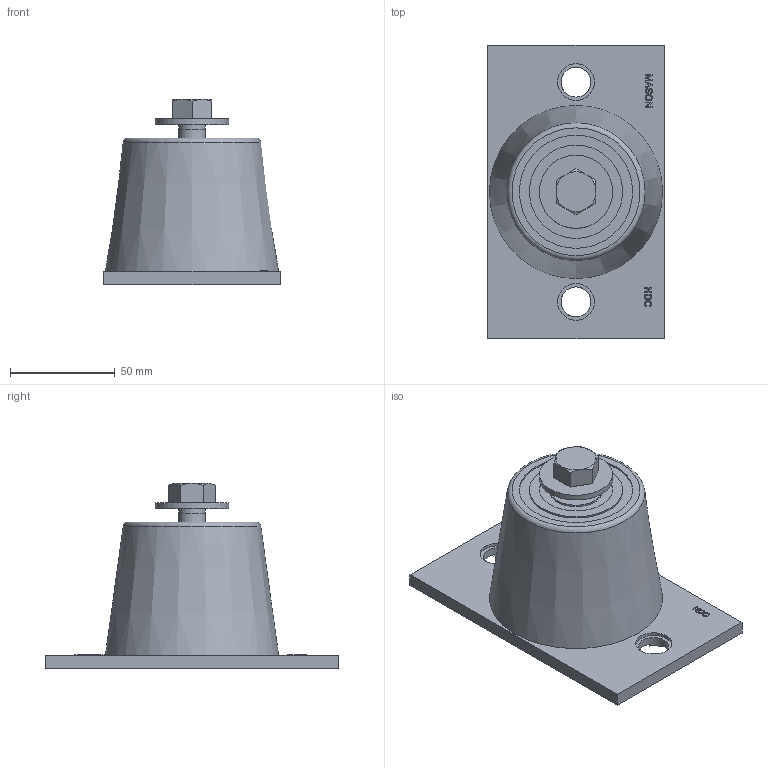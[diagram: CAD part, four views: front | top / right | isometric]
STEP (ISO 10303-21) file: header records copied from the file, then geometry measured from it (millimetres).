
FILE_DESCRIPTION((''),'2;1');
FILE_NAME('C:\2012_Work\Designs\ND\ND-C\A-1012-2 NDC MOUNT-BLACK.stp','2013-09-11T09:47:01',('KShiels'),(''),'Autodesk Inventor 2012','Autodesk Inventor 2012','');
FILE_SCHEMA(('AUTOMOTIVE_DESIGN { 1 0 10303 214 1 1 1 1 }'));
Length unit declared in the file: inch
Products named in the file (6): A-1012-2 NDC MOUNT-BLACK; A-1012-2 NDC RUBBER-BLACK; A-1014-3 NDC TOP PLATE; ANSI B18.22.1 - 1_2 - wide - Type A_NDC; ANSI_ASME B18.2.1 - 1_2-13 UNC - 1(2)_NDC; A-1013-4 NDC BASE PLATE
Assembly tree (5 placements, depth 2):
  A-1012-2 NDC MOUNT-BLACK
    A-1012-2 NDC RUBBER-BLACK
    A-1014-3 NDC TOP PLATE
    ANSI B18.22.1 - 1_2 - wide - Type A_NDC
    ANSI_ASME B18.2.1 - 1_2-13 UNC - 1(2)_NDC
    A-1013-4 NDC BASE PLATE
Bounding box: 84.14 x 139.7 x 88.21 mm (x, y, z)
Volume: 322552.3 mm3; surface area: 77967.5 mm2
Topology: 5 solids, 5 shells, 360 faces, 924 edges, 612 vertices
Faces by surface type: plane 274, bspline 54, cylinder 20, cone 10, torus 2
Full cylindrical faces by diameter (mm): 10.592 x1, 12.7 x1, 14.275 x1, 14.288 x2, 15.478 x2, 15.875 x1, 17.463 x2, 19.05 x1, 25.4 x1, 34.925 x2, 38.1 x1, 41.275 x2, 44.45 x1, 53.975 x1, 61.913 x1
Entity records: 11294 total; most frequent: CARTESIAN_POINT 2781, ORIENTED_EDGE 1778, DIRECTION 1486, EDGE_CURVE 889, VECTOR 686, LINE 686, VERTEX_POINT 603, EDGE_LOOP 440
